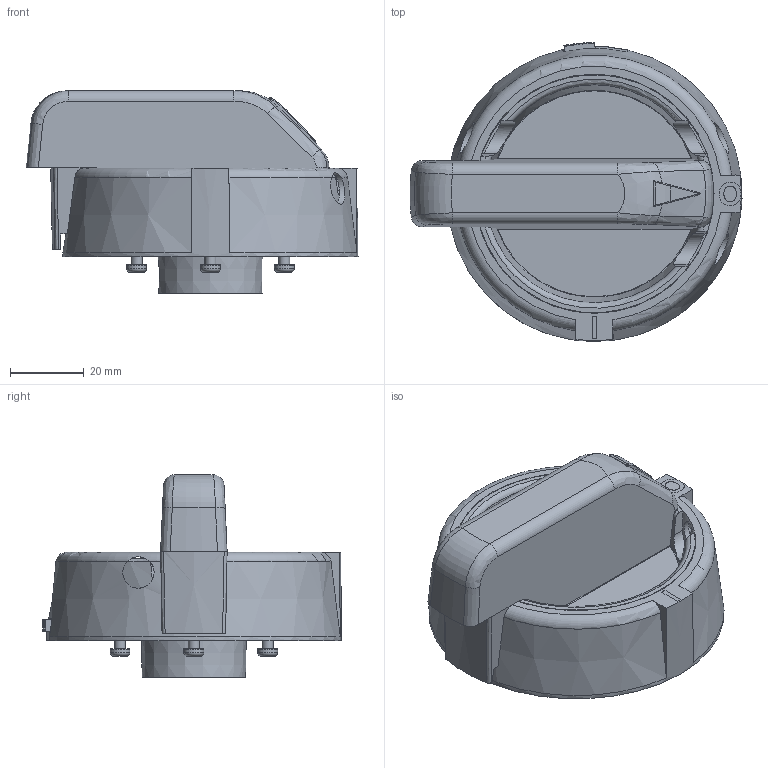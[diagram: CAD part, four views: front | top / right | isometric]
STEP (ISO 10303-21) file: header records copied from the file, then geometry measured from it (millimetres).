
FILE_DESCRIPTION(/* description */ (''),/* implementation_level */ '2;1');
FILE_NAME(/* name */ '4007752.stp',/* time_stamp */ '2019-03-04T17:33:40+01:00',/* author */ (''),/* organization */ (''),/* preprocessor_version */ 'ST-DEVELOPER v16.7',/* originating_system */ 'SIEMENS PLM Software NX 12.0',/* authorisation */ '');
FILE_SCHEMA (('AUTOMOTIVE_DESIGN { 1 0 10303 214 3 1 1 1 }'));
Length unit declared in the file: millimetre
Products named in the file (1): BSOM0DCCF74Fuqrj
Bounding box: 89.93 x 81 x 54.9 mm (x, y, z)
Volume: 63834.3 mm3; surface area: 81466 mm2
Topology: 10 solids, 10 shells, 768 faces, 1966 edges, 1204 vertices
Faces by surface type: plane 271, cone 165, cylinder 162, bspline 83, torus 47, sphere 40
Full cylindrical faces by diameter (mm): 3 x6, 5.4 x4, 6.6 x2, 8.5 x3
Entity records: 26086 total; most frequent: CARTESIAN_POINT 8962, ORIENTED_EDGE 3608, DIRECTION 3384, EDGE_CURVE 1804, AXIS2_PLACEMENT_3D 1399, VERTEX_POINT 1172, EDGE_LOOP 912, ADVANCED_FACE 768
